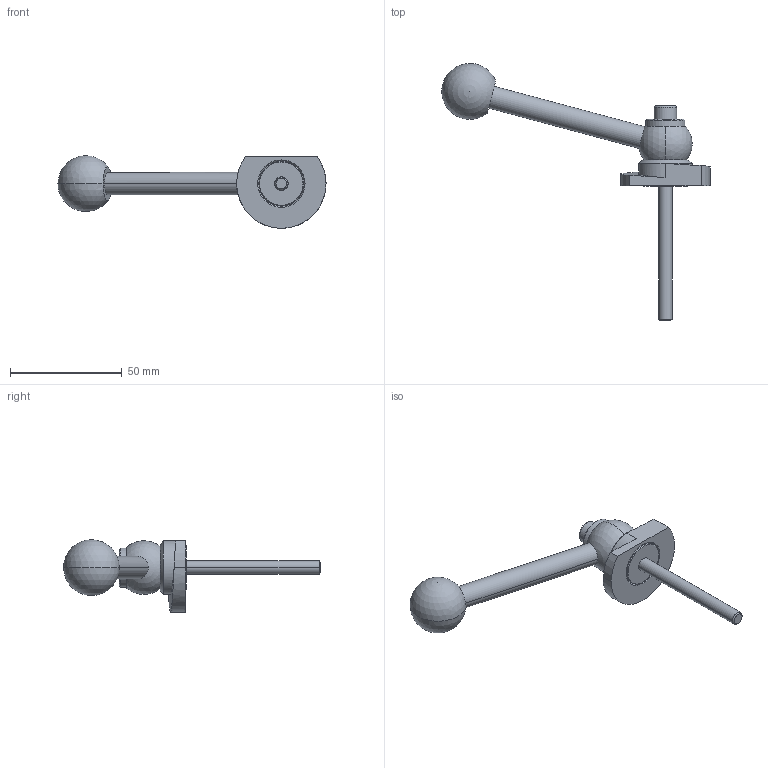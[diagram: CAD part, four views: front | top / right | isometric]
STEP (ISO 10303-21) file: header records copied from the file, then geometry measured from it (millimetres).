
FILE_DESCRIPTION (( 'STEP AP214' ), '1' );
FILE_NAME ('918.1-40-KVS-L-60.step', '2024-05-15T13:00:11', ( '' ), ( '' ), 'SwSTEP 2.0', 'SolidWorks 2022', '' );
FILE_SCHEMA (( 'AUTOMOTIVE_DESIGN' ));
Length unit declared in the file: millimetre
Products named in the file (1): 918.1-40-KVS-L-60
Bounding box: 119.95 x 114.99 x 32.5 mm (x, y, z)
Volume: 31446.7 mm3; surface area: 11967 mm2
Topology: 1 solids, 1 shells, 62 faces, 141 edges, 89 vertices
Faces by surface type: plane 20, cylinder 19, cone 14, sphere 4, bspline 3, torus 2
Entity records: 2003 total; most frequent: CARTESIAN_POINT 614, DIRECTION 304, ORIENTED_EDGE 262, EDGE_CURVE 131, AXIS2_PLACEMENT_3D 125, VERTEX_POINT 83, EDGE_LOOP 74, CIRCLE 65
